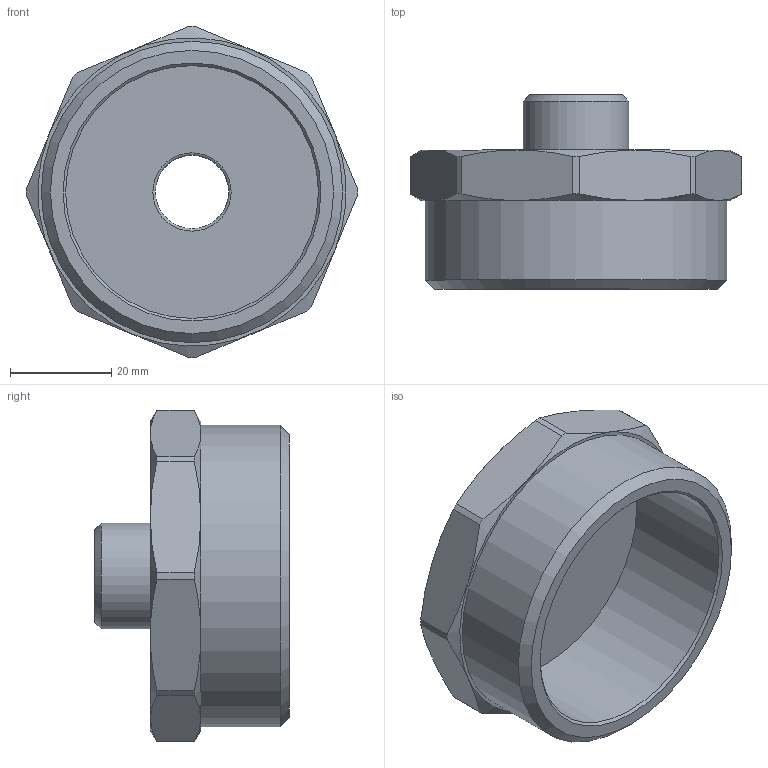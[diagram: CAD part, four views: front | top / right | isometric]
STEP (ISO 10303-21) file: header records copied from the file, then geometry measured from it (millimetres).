
FILE_DESCRIPTION(('STEP AP203'), '1');
FILE_NAME('ÂÐ.753157.011 - VTr.580.N.0904 Íèïïåëü G2xG1-2', '2024-07-03T10:23:22', ('Boss'), (''), 'C3D Converter', 'C3D Toolkit', '');
FILE_SCHEMA(('CONFIG_CONTROL_DESIGN'));
Length unit declared in the file: millimetre
Products named in the file (1): ВР.753157.011
Bounding box: 65.5 x 38.5 x 65.5 mm (x, y, z)
Volume: 34317.5 mm3; surface area: 15753.3 mm2
Topology: 1 solids, 1 shells, 40 faces, 90 edges, 55 vertices
Faces by surface type: cone 14, plane 13, cylinder 12, torus 1
Full cylindrical faces by diameter (mm): 14.5 x1, 20.955 x1, 50 x1, 59.614 x1
Entity records: 1673 total; most frequent: CARTESIAN_POINT 799, DIRECTION 176, ORIENTED_EDGE 162, EDGE_CURVE 81, AXIS2_PLACEMENT_3D 80, VERTEX_POINT 55, EDGE_LOOP 54, ADVANCED_FACE 40
